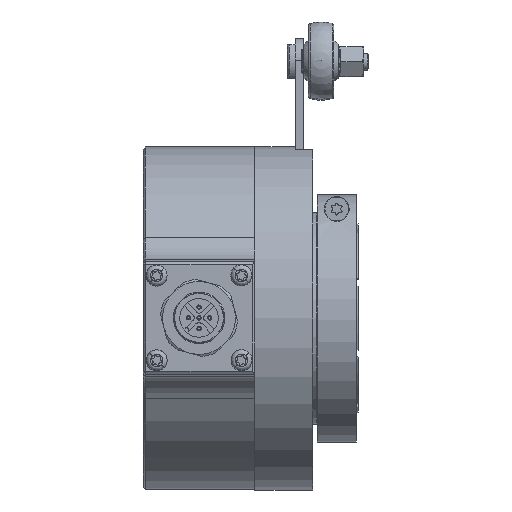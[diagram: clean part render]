
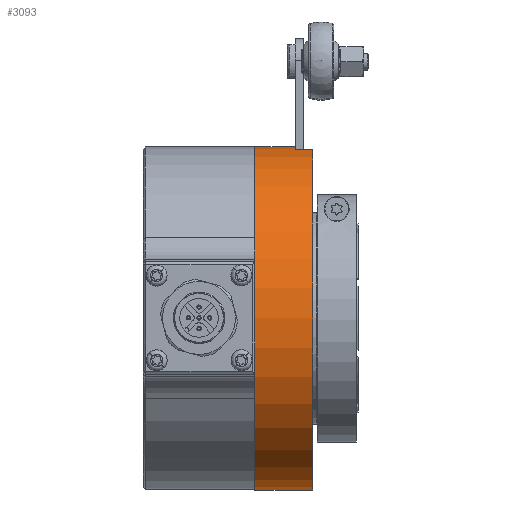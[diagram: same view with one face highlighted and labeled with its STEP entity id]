
A CAD part, top view. The second image highlights one B-rep face of the part: STEP entity #3093.
In plain terms, the highlighted cylindrical face has radius 40.075 mm (diameter 80.15 mm), a partial arc.
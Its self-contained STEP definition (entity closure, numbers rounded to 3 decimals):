
#342 = DIRECTION ( 'NONE',  ( -1., 0., 0. ) ) ;
#854 = CIRCLE ( 'NONE', #18525, 40.075 ) ;
#1684 = DIRECTION ( 'NONE',  ( -1., 0., 0. ) ) ;
#2416 = CARTESIAN_POINT ( 'NONE',  ( 9.5, 40.075, 0. ) ) ;
#3093 = ADVANCED_FACE ( 'NONE', ( #4134 ), #10170, .T. ) ;
#3182 = LINE ( 'NONE', #24155, #20604 ) ;
#3667 = EDGE_CURVE ( 'NONE', #23859, #8475, #854, .T. ) ;
#3707 = VECTOR ( 'NONE', #23662, 1000. ) ;
#4134 = FACE_OUTER_BOUND ( 'NONE', #9021, .T. ) ;
#4344 = ORIENTED_EDGE ( 'NONE', *, *, #19651, .T. ) ;
#4379 = CARTESIAN_POINT ( 'NONE',  ( 9.5, 39.468, 6.95 ) ) ;
#4404 = ORIENTED_EDGE ( 'NONE', *, *, #17932, .T. ) ;
#4520 = VERTEX_POINT ( 'NONE', #13140 ) ;
#4882 = ORIENTED_EDGE ( 'NONE', *, *, #5116, .T. ) ;
#5116 = EDGE_CURVE ( 'NONE', #4520, #6686, #20722, .T. ) ;
#6686 = VERTEX_POINT ( 'NONE', #12309 ) ;
#6780 = DIRECTION ( 'NONE',  ( 0., 1., 0. ) ) ;
#8475 = VERTEX_POINT ( 'NONE', #2416 ) ;
#9021 = EDGE_LOOP ( 'NONE', ( #10017, #4882, #4404, #22435, #4344, #18383 ) ) ;
#9324 = LINE ( 'NONE', #11465, #12852 ) ;
#9869 = AXIS2_PLACEMENT_3D ( 'NONE', #12338, #20138, #6780 ) ;
#10017 = ORIENTED_EDGE ( 'NONE', *, *, #20717, .F. ) ;
#10036 = CARTESIAN_POINT ( 'NONE',  ( -12.775, 0., 0. ) ) ;
#10170 = CYLINDRICAL_SURFACE ( 'NONE', #21696, 40.075 ) ;
#11045 = AXIS2_PLACEMENT_3D ( 'NONE', #23439, #342, #15681 ) ;
#11465 = CARTESIAN_POINT ( 'NONE',  ( -12.775, 39.468, 6.95 ) ) ;
#11927 = DIRECTION ( 'NONE',  ( -1., 0., 0. ) ) ;
#12309 = CARTESIAN_POINT ( 'NONE',  ( 13.5, 39.468, 6.95 ) ) ;
#12338 = CARTESIAN_POINT ( 'NONE',  ( 13.5, 0., 0. ) ) ;
#12852 = VECTOR ( 'NONE', #13354, 1000. ) ;
#13031 = CIRCLE ( 'NONE', #11045, 40.075 ) ;
#13140 = CARTESIAN_POINT ( 'NONE',  ( 13.5, -40.075, 0. ) ) ;
#13354 = DIRECTION ( 'NONE',  ( -1., 0., 0. ) ) ;
#13699 = DIRECTION ( 'NONE',  ( 0., 1., 0. ) ) ;
#14259 = LINE ( 'NONE', #23906, #3707 ) ;
#15681 = DIRECTION ( 'NONE',  ( 0., 1., 0. ) ) ;
#15812 = VERTEX_POINT ( 'NONE', #23869 ) ;
#16125 = CARTESIAN_POINT ( 'NONE',  ( 9.5, 0., 0. ) ) ;
#17535 = VERTEX_POINT ( 'NONE', #22711 ) ;
#17932 = EDGE_CURVE ( 'NONE', #6686, #23859, #9324, .T. ) ;
#18128 = DIRECTION ( 'NONE',  ( -1., 0., 0. ) ) ;
#18383 = ORIENTED_EDGE ( 'NONE', *, *, #22678, .F. ) ;
#18525 = AXIS2_PLACEMENT_3D ( 'NONE', #16125, #18128, #21515 ) ;
#19651 = EDGE_CURVE ( 'NONE', #8475, #15812, #14259, .T. ) ;
#20138 = DIRECTION ( 'NONE',  ( -1., 0., 0. ) ) ;
#20604 = VECTOR ( 'NONE', #1684, 1000. ) ;
#20717 = EDGE_CURVE ( 'NONE', #4520, #17535, #3182, .T. ) ;
#20722 = CIRCLE ( 'NONE', #9869, 40.075 ) ;
#21515 = DIRECTION ( 'NONE',  ( 0., 1., 0. ) ) ;
#21696 = AXIS2_PLACEMENT_3D ( 'NONE', #10036, #11927, #13699 ) ;
#22435 = ORIENTED_EDGE ( 'NONE', *, *, #3667, .T. ) ;
#22678 = EDGE_CURVE ( 'NONE', #17535, #15812, #13031, .T. ) ;
#22711 = CARTESIAN_POINT ( 'NONE',  ( 0., -40.075, 0. ) ) ;
#23439 = CARTESIAN_POINT ( 'NONE',  ( 0., 0., 0. ) ) ;
#23662 = DIRECTION ( 'NONE',  ( -1., 0., 0. ) ) ;
#23859 = VERTEX_POINT ( 'NONE', #4379 ) ;
#23869 = CARTESIAN_POINT ( 'NONE',  ( 0., 40.075, 0. ) ) ;
#23906 = CARTESIAN_POINT ( 'NONE',  ( -12.775, 40.075, 0. ) ) ;
#24155 = CARTESIAN_POINT ( 'NONE',  ( -12.775, -40.075, 0. ) ) ;
